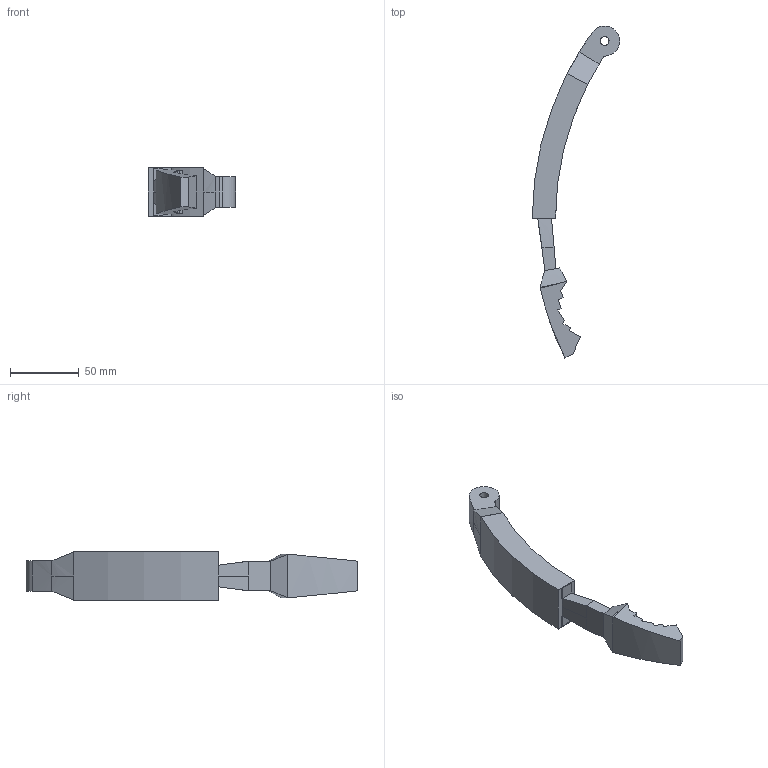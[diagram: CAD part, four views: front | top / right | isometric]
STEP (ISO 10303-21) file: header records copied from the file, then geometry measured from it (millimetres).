
FILE_DESCRIPTION(/* description */ ('Alibre Inc.'),/* implementation_level */ '2;1');
FILE_NAME(/* name */ 'export0',/* time_stamp */ '2013-09-09T12:26:32-04:00',/* author */ (''),/* organization */ (''),/* preprocessor_version */ 'ST-DEVELOPER v14',/* originating_system */ 'Alibre',/* authorisation */ '');
FILE_SCHEMA (('CONFIG_CONTROL_DESIGN'));
Length unit declared in the file: centimetre
Products named in the file (1): ID_1
Bounding box: 63.54 x 241.53 x 34.92 mm (x, y, z)
Volume: 109517.7 mm3; surface area: 23920 mm2
Topology: 1 solids, 1 shells, 66 faces, 168 edges, 106 vertices
Faces by surface type: plane 38, bspline 16, cylinder 12
Full cylindrical faces by diameter (mm): 6.35 x1
Entity records: 2252 total; most frequent: CARTESIAN_POINT 795, ORIENTED_EDGE 334, DIRECTION 175, EDGE_CURVE 167, VERTEX_POINT 106, VECTOR 77, LINE 77, EDGE_LOOP 71
